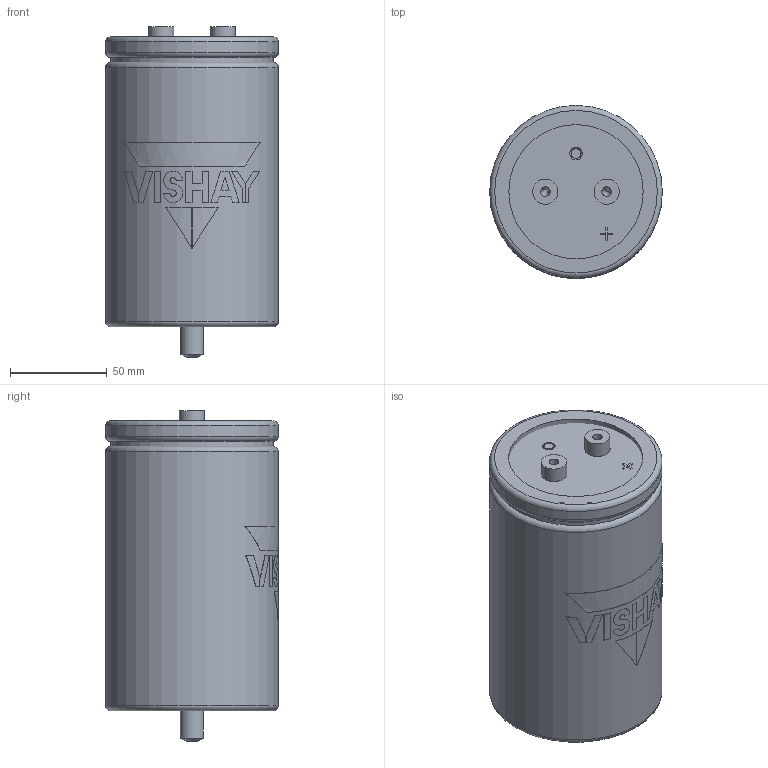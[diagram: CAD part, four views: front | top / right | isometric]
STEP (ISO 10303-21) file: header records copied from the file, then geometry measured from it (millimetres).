
FILE_DESCRIPTION(('FreeCAD Model'),'2;1');
FILE_NAME('C:/Users/tvandesteeg/Documents/Documents/FreeCAD/Stepfiles/ST capacitors/STB_HP_13mm_M6_90x146.step','2020-12-14T16:44:21',('Author'), (''),'Open CASCADE STEP processor 7.3','FreeCAD','Unknown');
FILE_SCHEMA(('AUTOMOTIVE_DESIGN { 1 0 10303 214 1 1 1 1 }'));
Length unit declared in the file: millimetre
Products named in the file (8): VentBody; TerminalBody_(Mirror_#2); TerminalBody; Disc; LogoPrint; CanBody; TerminalHole; STBBottomBody
Bounding box: 89.4 x 89.5 x 171.2 mm (x, y, z)
Volume: 941580.8 mm3; surface area: 90769.2 mm2
Topology: 18 solids, 18 shells, 155 faces, 321 edges, 211 vertices
Faces by surface type: plane 96, cylinder 50, torus 5, cone 4
Full cylindrical faces by diameter (mm): 5 x4, 11.966 x1, 13 x2, 13.05 x7, 13.1 x2, 69.533 x3, 79 x2, 84.2 x1, 89.4 x2
Entity records: 10876 total; most frequent: CARTESIAN_POINT 3368, DIRECTION 1245, ORIENTED_EDGE 638, PCURVE 638, DEFINITIONAL_REPRESENTATION 638, LINE 547, VECTOR 547, EDGE_CURVE 319
